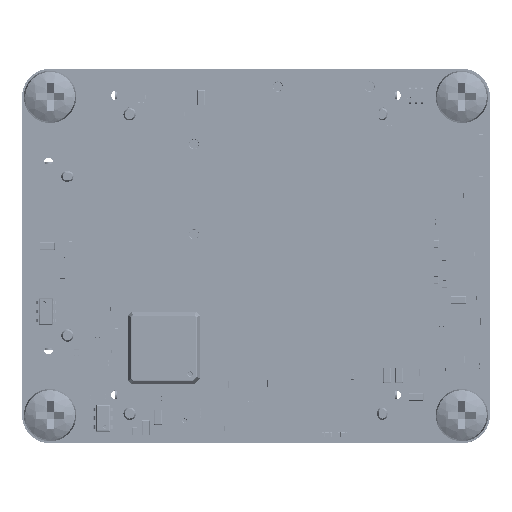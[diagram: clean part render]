
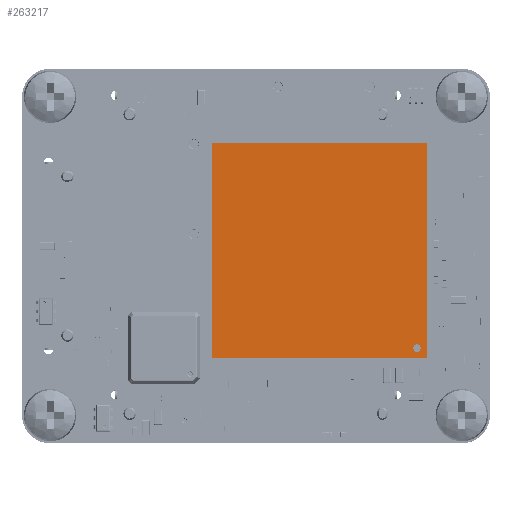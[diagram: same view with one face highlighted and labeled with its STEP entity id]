
A CAD part, top view. The second image highlights one B-rep face of the part: STEP entity #263217.
In plain terms, the highlighted planar face has unit normal (0, 0, 1).
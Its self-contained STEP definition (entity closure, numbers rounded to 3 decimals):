
#263088 = VERTEX_POINT('',#263089);
#263089 = CARTESIAN_POINT('',(11.5,-11.5,3.32));
#263095 = EDGE_CURVE('',#263088,#263096,#263098,.T.);
#263096 = VERTEX_POINT('',#263097);
#263097 = CARTESIAN_POINT('',(-11.5,-11.5,3.32));
#263098 = LINE('',#263099,#263100);
#263099 = CARTESIAN_POINT('',(11.5,-11.5,3.32));
#263100 = VECTOR('',#263101,1.);
#263101 = DIRECTION('',(-1.,0.,0.));
#263126 = EDGE_CURVE('',#263096,#263127,#263129,.T.);
#263127 = VERTEX_POINT('',#263128);
#263128 = CARTESIAN_POINT('',(-11.5,11.5,3.32));
#263129 = LINE('',#263130,#263131);
#263130 = CARTESIAN_POINT('',(-11.5,-11.5,3.32));
#263131 = VECTOR('',#263132,1.);
#263132 = DIRECTION('',(0.,1.,0.));
#263157 = EDGE_CURVE('',#263127,#263158,#263160,.T.);
#263158 = VERTEX_POINT('',#263159);
#263159 = CARTESIAN_POINT('',(11.5,11.5,3.32));
#263160 = LINE('',#263161,#263162);
#263161 = CARTESIAN_POINT('',(-11.5,11.5,3.32));
#263162 = VECTOR('',#263163,1.);
#263163 = DIRECTION('',(1.,0.,0.));
#263188 = EDGE_CURVE('',#263158,#263088,#263189,.T.);
#263189 = LINE('',#263190,#263191);
#263190 = CARTESIAN_POINT('',(11.5,11.5,3.32));
#263191 = VECTOR('',#263192,1.);
#263192 = DIRECTION('',(0.,-1.,0.));
#263217 = ADVANCED_FACE('',(#263218),#263224,.F.);
#263218 = FACE_BOUND('',#263219,.F.);
#263219 = EDGE_LOOP('',(#263220,#263221,#263222,#263223));
#263220 = ORIENTED_EDGE('',*,*,#263095,.T.);
#263221 = ORIENTED_EDGE('',*,*,#263126,.T.);
#263222 = ORIENTED_EDGE('',*,*,#263157,.T.);
#263223 = ORIENTED_EDGE('',*,*,#263188,.T.);
#263224 = PLANE('',#263225);
#263225 = AXIS2_PLACEMENT_3D('',#263226,#263227,#263228);
#263226 = CARTESIAN_POINT('',(0.,0.,
    3.32));
#263227 = DIRECTION('',(-0.,-0.,-1.));
#263228 = DIRECTION('',(-1.,0.,0.));
